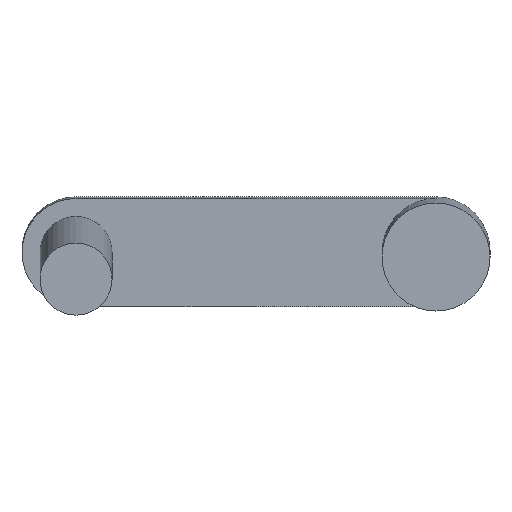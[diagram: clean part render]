
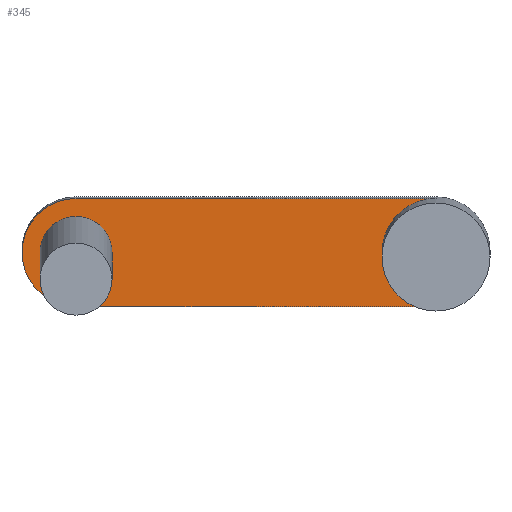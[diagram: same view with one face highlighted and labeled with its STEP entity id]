
A CAD part, top view. The second image highlights one B-rep face of the part: STEP entity #345.
In plain terms, the highlighted planar face has unit normal (0, -0.018, 1) as drawn and (0, 0, 1) by its records, which use the part's own axes.
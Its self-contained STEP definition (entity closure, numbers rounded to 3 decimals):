
#210 = VERTEX_POINT('',#211);
#211 = CARTESIAN_POINT('',(0.,15.,30.));
#217 = EDGE_CURVE('',#210,#218,#220,.T.);
#218 = VERTEX_POINT('',#219);
#219 = CARTESIAN_POINT('',(0.,-15.,30.));
#220 = CIRCLE('',#221,15.);
#221 = AXIS2_PLACEMENT_3D('',#222,#223,#224);
#222 = CARTESIAN_POINT('',(0.,0.,30.));
#223 = DIRECTION('',(0.,0.,1.));
#224 = DIRECTION('',(1.,0.,0.));
#250 = EDGE_CURVE('',#210,#251,#253,.T.);
#251 = VERTEX_POINT('',#252);
#252 = CARTESIAN_POINT('',(100.,15.,30.));
#253 = LINE('',#254,#255);
#254 = CARTESIAN_POINT('',(0.,15.,30.));
#255 = VECTOR('',#256,1.);
#256 = DIRECTION('',(1.,0.,0.));
#281 = EDGE_CURVE('',#218,#282,#284,.T.);
#282 = VERTEX_POINT('',#283);
#283 = CARTESIAN_POINT('',(100.,-15.,30.));
#284 = LINE('',#285,#286);
#285 = CARTESIAN_POINT('',(0.,-15.,30.));
#286 = VECTOR('',#287,1.);
#287 = DIRECTION('',(1.,0.,0.));
#345 = ADVANCED_FACE('',(#346,#358),#369,.T.);
#346 = FACE_BOUND('',#347,.T.);
#347 = EDGE_LOOP('',(#348,#349,#350,#351));
#348 = ORIENTED_EDGE('',*,*,#250,.F.);
#349 = ORIENTED_EDGE('',*,*,#217,.T.);
#350 = ORIENTED_EDGE('',*,*,#281,.T.);
#351 = ORIENTED_EDGE('',*,*,#352,.F.);
#352 = EDGE_CURVE('',#251,#282,#353,.T.);
#353 = CIRCLE('',#354,15.);
#354 = AXIS2_PLACEMENT_3D('',#355,#356,#357);
#355 = CARTESIAN_POINT('',(100.,0.,30.));
#356 = DIRECTION('',(0.,0.,1.));
#357 = DIRECTION('',(1.,0.,-0.));
#358 = FACE_BOUND('',#359,.T.);
#359 = EDGE_LOOP('',(#360));
#360 = ORIENTED_EDGE('',*,*,#361,.F.);
#361 = EDGE_CURVE('',#362,#362,#364,.T.);
#362 = VERTEX_POINT('',#363);
#363 = CARTESIAN_POINT('',(10.,0.,30.));
#364 = CIRCLE('',#365,10.);
#365 = AXIS2_PLACEMENT_3D('',#366,#367,#368);
#366 = CARTESIAN_POINT('',(0.,0.,30.));
#367 = DIRECTION('',(0.,0.,1.));
#368 = DIRECTION('',(1.,0.,0.));
#369 = PLANE('',#370);
#370 = AXIS2_PLACEMENT_3D('',#371,#372,#373);
#371 = CARTESIAN_POINT('',(42.402,0.,30.));
#372 = DIRECTION('',(0.,0.,1.));
#373 = DIRECTION('',(1.,0.,0.));
